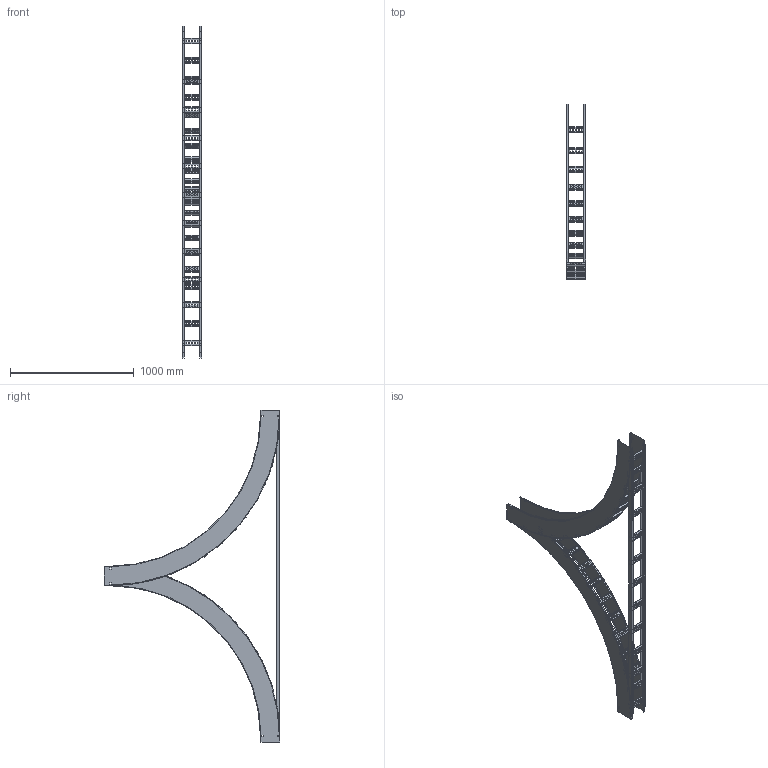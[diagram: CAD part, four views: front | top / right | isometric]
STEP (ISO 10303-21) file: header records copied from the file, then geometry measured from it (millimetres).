
FILE_DESCRIPTION((''),'2;1');
FILE_NAME('AUF606VVTU48_ASM','2010-01-27T',('erouzier'),(''),'PRO/ENGINEER BY PARAMETRIC TECHNOLOGY CORPORATION, 2008510','PRO/ENGINEER BY PARAMETRIC TECHNOLOGY CORPORATION, 2008510','');
FILE_SCHEMA(('CONFIG_CONTROL_DESIGN'));
Length unit declared in the file: inch
Products named in the file (7): CDS001418_6_90_48; CDS001418_6_90_48_AF2; CDS001418_6_90_48_AF3; CDS002159L6-P; CDS000495_GEN_AF6; CDS000495_GEN_AF7; AUF606VVTU48_ASM
Assembly tree (40 placements, depth 2):
  AUF606VVTU48_ASM
    CDS001418_6_90_48  x2
    CDS001418_6_90_48_AF2
    CDS001418_6_90_48_AF3
    CDS002159L6-P  x34
    CDS000495_GEN_AF6
    CDS000495_GEN_AF7
Bounding box: 158.75 x 1420.16 x 2683.81 mm (x, y, z)
Volume: 4347947.4 mm3; surface area: 4684412.1 mm2
Topology: 40 solids, 40 shells, 2326 faces, 6632 edges, 4386 vertices
Faces by surface type: plane 1344, cylinder 966, torus 16
Entity records: 7135 total; most frequent: CARTESIAN_POINT 1284, DIRECTION 1234, ORIENTED_EDGE 1112, EDGE_CURVE 556, AXIS2_PLACEMENT_3D 419, VECTOR 396, LINE 396, VERTEX_POINT 346
